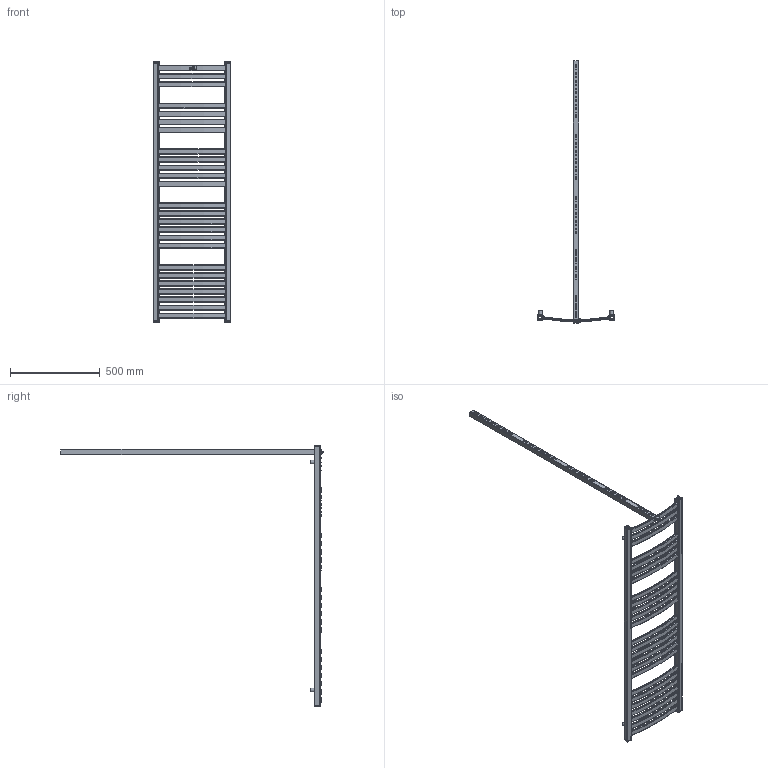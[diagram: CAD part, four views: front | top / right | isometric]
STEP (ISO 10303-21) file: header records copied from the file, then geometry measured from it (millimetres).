
FILE_DESCRIPTION( ( 'Unknown' ), '1' );
FILE_NAME( 'D:/Alplast sp. j/Witryna zespoBu - Projekty/Archiwum/Grzejniki Archiwum/Projekty/STANDARD/AK-EL/AK6-400EL.stp', 'Unknown', ( 'Unknown' ), ( 'Unknown' ), 'PSStep 10.1', 'Unknown', ' ' );
FILE_SCHEMA( ( 'AUTOMOTIVE_DESIGN { 1 0 10303 214 1 1 1 1 }' ) );
Length unit declared in the file: millimetre
Products named in the file (5): Assem1; kana³  poziomy lukowy L-400; zaslepka kwadrat otwor; tulejka kat 12stopni; AK6-EPEL
Bounding box: 433.71 x 1461 x 1450 mm (x, y, z)
Volume: 1743076.5 mm3; surface area: 2338068.6 mm2
Topology: 39 solids, 39 shells, 1262 faces, 3542 edges, 2368 vertices
Faces by surface type: plane 556, cylinder 488, torus 218
Full cylindrical faces by diameter (mm): 16 x5, 18 x5, 18.631 x5, 23 x5
Entity records: 11252 total; most frequent: DIRECTION 1636, CARTESIAN_POINT 1568, ORIENTED_EDGE 1516, EDGE_CURVE 758, AXIS2_PLACEMENT_3D 578, VERTEX_POINT 510, LINE 480, VECTOR 480
